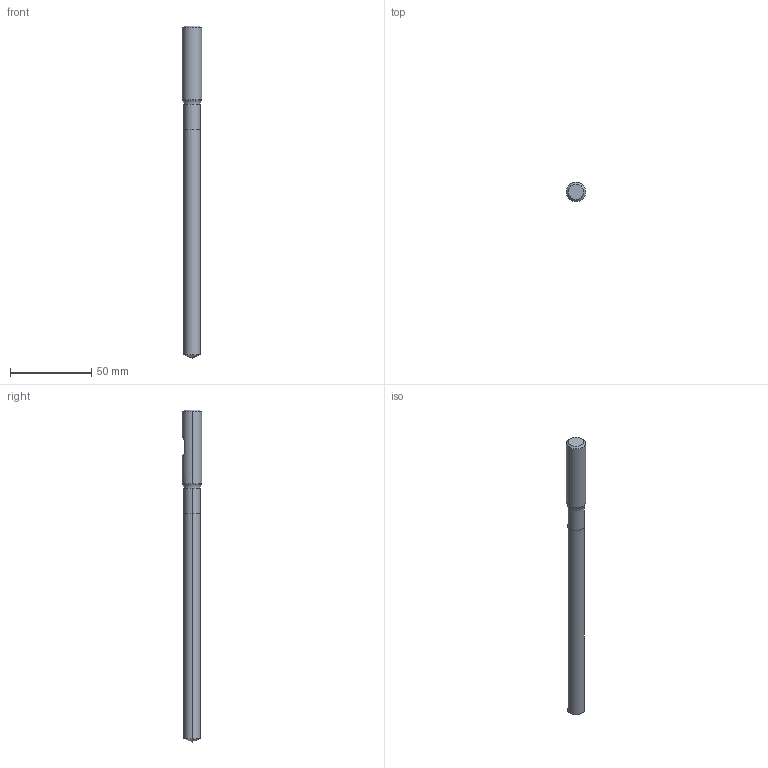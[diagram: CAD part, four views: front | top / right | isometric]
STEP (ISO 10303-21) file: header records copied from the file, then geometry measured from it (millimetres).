
FILE_DESCRIPTION (( 'STEP AP214' ), '1' );
FILE_NAME ('710.103.10_3D-model.step', '2022-02-22T17:51:14', ( '' ), ( '' ), 'SwSTEP 2.0', 'SolidWorks 2020', '' );
FILE_SCHEMA (( 'AUTOMOTIVE_DESIGN' ));
Length unit declared in the file: millimetre
Products named in the file (3): CUT-3D^Baugr148; 710.103.10_3D-model; NOCUT-3D^Baugr148
Assembly tree (2 placements, depth 2):
  710.103.10_3D-model
    CUT-3D^Baugr148
    NOCUT-3D^Baugr148
Bounding box: 12 x 12 x 204 mm (x, y, z)
Volume: 18148.8 mm3; surface area: 7127.2 mm2
Topology: 2 solids, 2 shells, 20 faces, 38 edges, 21 vertices
Faces by surface type: cone 6, cylinder 6, plane 6, torus 2
Entity records: 608 total; most frequent: DIRECTION 108, CARTESIAN_POINT 91, ORIENTED_EDGE 72, AXIS2_PLACEMENT_3D 46, EDGE_CURVE 36, EDGE_LOOP 21, VERTEX_POINT 21, FACE_OUTER_BOUND 20
